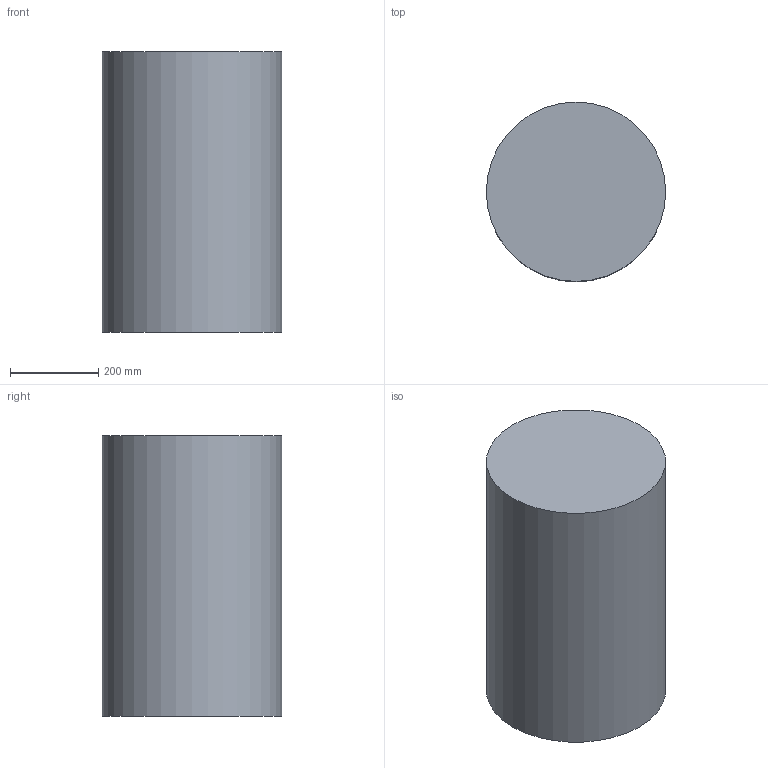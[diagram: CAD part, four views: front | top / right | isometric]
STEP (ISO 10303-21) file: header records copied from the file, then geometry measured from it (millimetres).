
FILE_DESCRIPTION(('A cylindrical pin'),'2;1');
FILE_NAME('Pin.step','2026-09-10T00:00:00',('UltraCanvas'),(''), 'hand-authored','hand-authored','');
FILE_SCHEMA(('AUTOMOTIVE_DESIGN { 1 0 10303 214 3 1 1 }'));
Length unit declared in the file: inch
Products named in the file (1): Pin
Bounding box: 406.4 x 406.4 x 635 mm (x, y, z)
Volume: 82370367.8 mm3; surface area: 1070166.2 mm2
Topology: 1 solids, 1 shells, 3 faces, 3 edges, 2 vertices
Faces by surface type: plane 2, cylinder 1
Full cylindrical faces by diameter (mm): 406.4 x1
Entity records: 68 total; most frequent: ORIENTED_EDGE 6, CARTESIAN_POINT 4, AXIS2_PLACEMENT_3D 4, DIRECTION 3, EDGE_CURVE 3, EDGE_LOOP 3, FACE_OUTER_BOUND 3, ADVANCED_FACE 3
